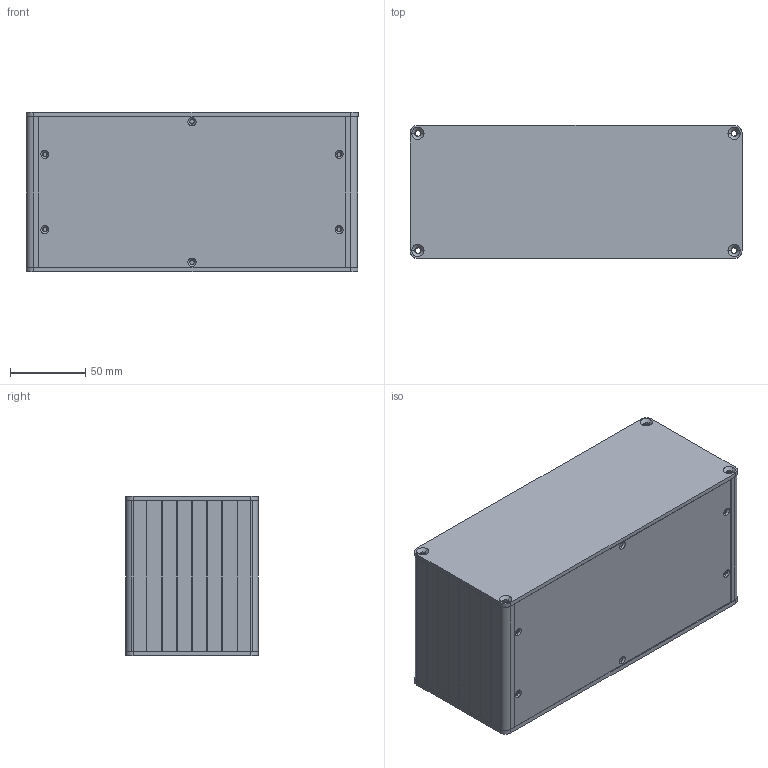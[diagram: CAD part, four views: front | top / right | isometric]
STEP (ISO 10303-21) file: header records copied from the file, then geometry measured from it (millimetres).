
FILE_DESCRIPTION (( 'STEP AP203' ), '1' );
FILE_NAME ('MM-228-10.STEP', '2025-10-14T11:39:48', ( '' ), ( '' ), 'SwSTEP 2.0', 'SolidWorks 2021', '' );
FILE_SCHEMA (( 'CONFIG_CONTROL_DESIGN' ));
Length unit declared in the file: millimetre
Products named in the file (4): MM-228-10; levha_10 cm; 2U_panel; AP-220_10 cm
Assembly tree (6 placements, depth 2):
  MM-228-10
    2U_panel  x2
    AP-220_10 cm  x2
    levha_10 cm  x2
Bounding box: 220 x 88.1 x 106 mm (x, y, z)
Volume: 249999.2 mm3; surface area: 250334.2 mm2
Topology: 6 solids, 6 shells, 904 faces, 2652 edges, 1760 vertices
Faces by surface type: plane 544, cylinder 320, cone 40
Entity records: 15596 total; most frequent: CARTESIAN_POINT 2707, ORIENTED_EDGE 2652, DIRECTION 2588, EDGE_CURVE 1326, VECTOR 970, LINE 970, VERTEX_POINT 880, AXIS2_PLACEMENT_3D 809
